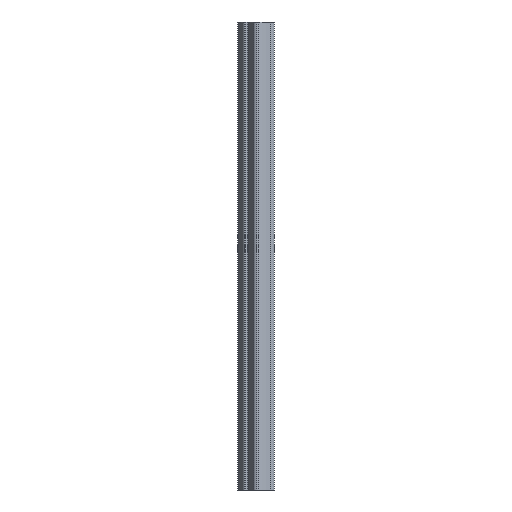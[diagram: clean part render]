
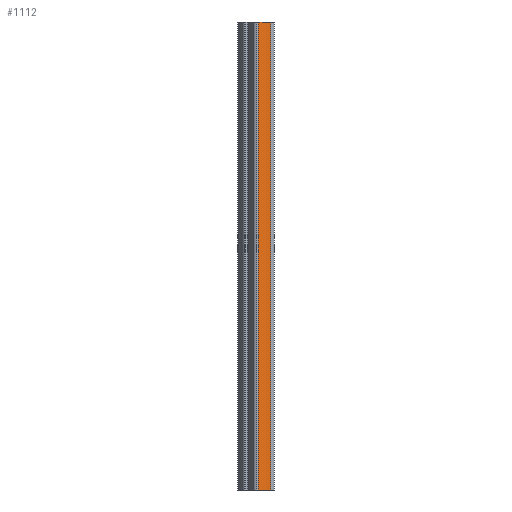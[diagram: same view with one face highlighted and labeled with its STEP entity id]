
A CAD part, left-side view. The second image highlights one B-rep face of the part: STEP entity #1112.
In plain terms, the highlighted cylindrical face has radius 40 mm (diameter 80 mm), a partial arc.
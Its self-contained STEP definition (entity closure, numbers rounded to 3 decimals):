
#373 = EDGE_CURVE ( 'NONE', #380, #433, #1924, .T. ) ;
#380 = VERTEX_POINT ( 'NONE', #1918 ) ;
#433 = VERTEX_POINT ( 'NONE', #2088 ) ;
#487 = EDGE_CURVE ( 'NONE', #380, #514, #2208, .T. ) ;
#514 = VERTEX_POINT ( 'NONE', #2273 ) ;
#781 = EDGE_CURVE ( 'NONE', #433, #784, #2598, .T. ) ;
#784 = VERTEX_POINT ( 'NONE', #2593 ) ;
#1112 = ADVANCED_FACE ( 'NONE', ( #3202 ), #3208, .F. ) ;
#1113 = EDGE_CURVE ( 'NONE', #514, #784, #3350, .T. ) ;
#1114 = ORIENTED_EDGE ( 'NONE', *, *, #781, .T. ) ;
#1115 = ORIENTED_EDGE ( 'NONE', *, *, #373, .T. ) ;
#1119 = ORIENTED_EDGE ( 'NONE', *, *, #487, .F. ) ;
#1260 = ORIENTED_EDGE ( 'NONE', *, *, #1113, .F. ) ;
#1296 = EDGE_LOOP ( 'NONE', ( #1114, #1260, #1119, #1115 ) ) ;
#1916 = DIRECTION ( 'NONE',  ( 0., 0., -1. ) ) ;
#1917 = VECTOR ( 'NONE', #1916, 1000. ) ;
#1918 = CARTESIAN_POINT ( 'NONE',  ( -28786.118, -23804.547, 500. ) ) ;
#1923 = CARTESIAN_POINT ( 'NONE',  ( -28786.118, -23804.547, 500. ) ) ;
#1924 = LINE ( 'NONE', #1923, #1917 ) ;
#2088 = CARTESIAN_POINT ( 'NONE',  ( -28786.118, -23804.547, 0. ) ) ;
#2131 = AXIS2_PLACEMENT_3D ( 'NONE', #2201, #2200, #2199 ) ;
#2199 = DIRECTION ( 'NONE',  ( 1., 0., 0. ) ) ;
#2200 = DIRECTION ( 'NONE',  ( 0., 0., -1. ) ) ;
#2201 = CARTESIAN_POINT ( 'NONE',  ( -28822.434, -23821.315, 500. ) ) ;
#2208 = CIRCLE ( 'NONE', #2131, 40. ) ;
#2273 = CARTESIAN_POINT ( 'NONE',  ( -28782.6, -23817.679, 500. ) ) ;
#2590 = DIRECTION ( 'NONE',  ( 1., 0., 0. ) ) ;
#2591 = DIRECTION ( 'NONE',  ( 0., 0., -1. ) ) ;
#2592 = AXIS2_PLACEMENT_3D ( 'NONE', #2603, #2591, #2590 ) ;
#2593 = CARTESIAN_POINT ( 'NONE',  ( -28782.6, -23817.679, 0. ) ) ;
#2598 = CIRCLE ( 'NONE', #2592, 40. ) ;
#2603 = CARTESIAN_POINT ( 'NONE',  ( -28822.434, -23821.315, 0. ) ) ;
#3190 = CARTESIAN_POINT ( 'NONE',  ( -28782.6, -23817.679, 500. ) ) ;
#3202 = FACE_OUTER_BOUND ( 'NONE', #1296, .T. ) ;
#3208 = CYLINDRICAL_SURFACE ( 'NONE', #3225, 40. ) ;
#3217 = DIRECTION ( 'NONE',  ( -1., 0., 0. ) ) ;
#3218 = DIRECTION ( 'NONE',  ( 0., 0., -1. ) ) ;
#3225 = AXIS2_PLACEMENT_3D ( 'NONE', #3355, #3218, #3217 ) ;
#3348 = DIRECTION ( 'NONE',  ( 0., 0., -1. ) ) ;
#3349 = VECTOR ( 'NONE', #3348, 1000. ) ;
#3350 = LINE ( 'NONE', #3190, #3349 ) ;
#3355 = CARTESIAN_POINT ( 'NONE',  ( -28822.434, -23821.315, 500. ) ) ;
